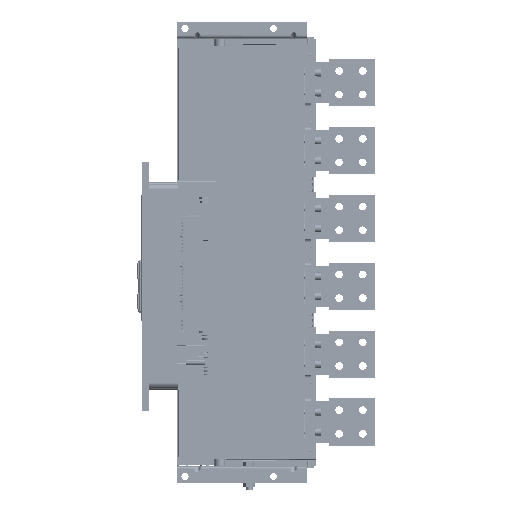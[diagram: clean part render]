
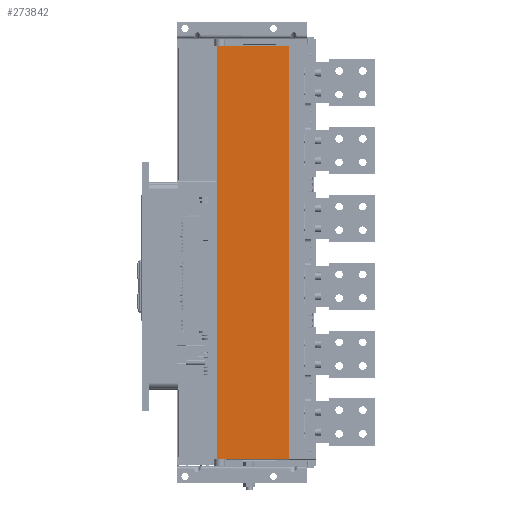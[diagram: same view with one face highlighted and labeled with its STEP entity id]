
A CAD part, front view. The second image highlights one B-rep face of the part: STEP entity #273842.
In plain terms, the highlighted planar face has unit normal (0, -1, 0).
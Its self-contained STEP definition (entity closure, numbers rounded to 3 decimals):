
#6633 = VERTEX_POINT ( 'NONE', #429281 ) ;
#18329 = AXIS2_PLACEMENT_3D ( 'NONE', #238895, #458741, #415844 ) ;
#54956 = FACE_OUTER_BOUND ( 'NONE', #411138, .T. ) ;
#62218 = EDGE_CURVE ( 'NONE', #214574, #446703, #356108, .T. ) ;
#67610 = ORIENTED_EDGE ( 'NONE', *, *, #120999, .T. ) ;
#70294 = CARTESIAN_POINT ( 'NONE',  ( 0., 0., 219. ) ) ;
#120999 = EDGE_CURVE ( 'NONE', #214574, #6633, #413798, .T. ) ;
#158742 = LINE ( 'NONE', #452607, #433960 ) ;
#161078 = DIRECTION ( 'NONE',  ( -1., 0., 0. ) ) ;
#205722 = DIRECTION ( 'NONE',  ( 1., 0., 0. ) ) ;
#214574 = VERTEX_POINT ( 'NONE', #299308 ) ;
#234500 = CARTESIAN_POINT ( 'NONE',  ( 0., 0., -482. ) ) ;
#238895 = CARTESIAN_POINT ( 'NONE',  ( 0., 0., -474.5 ) ) ;
#238901 = VERTEX_POINT ( 'NONE', #256876 ) ;
#238922 = EDGE_CURVE ( 'NONE', #238901, #446703, #158742, .T. ) ;
#248674 = VECTOR ( 'NONE', #289261, 1000. ) ;
#256876 = CARTESIAN_POINT ( 'NONE',  ( 123., 0., 219. ) ) ;
#258118 = CARTESIAN_POINT ( 'NONE',  ( 123., 0., 219. ) ) ;
#273842 = ADVANCED_FACE ( 'NONE', ( #54956 ), #463462, .T. ) ;
#289261 = DIRECTION ( 'NONE',  ( 0., 0., -1. ) ) ;
#296659 = ORIENTED_EDGE ( 'NONE', *, *, #238922, .T. ) ;
#299308 = CARTESIAN_POINT ( 'NONE',  ( 0., 0., -482. ) ) ;
#313173 = DIRECTION ( 'NONE',  ( 0., 0., 1. ) ) ;
#325101 = LINE ( 'NONE', #258118, #248674 ) ;
#337191 = ORIENTED_EDGE ( 'NONE', *, *, #62218, .F. ) ;
#346417 = VECTOR ( 'NONE', #313173, 1000. ) ;
#356108 = LINE ( 'NONE', #427826, #346417 ) ;
#386910 = VECTOR ( 'NONE', #205722, 1000. ) ;
#407517 = ORIENTED_EDGE ( 'NONE', *, *, #432084, .F. ) ;
#411138 = EDGE_LOOP ( 'NONE', ( #296659, #337191, #67610, #407517 ) ) ;
#413798 = LINE ( 'NONE', #234500, #386910 ) ;
#415844 = DIRECTION ( 'NONE',  ( 0., 0., -1. ) ) ;
#427826 = CARTESIAN_POINT ( 'NONE',  ( 0., 0., -482. ) ) ;
#429281 = CARTESIAN_POINT ( 'NONE',  ( 123., 0., -482. ) ) ;
#432084 = EDGE_CURVE ( 'NONE', #238901, #6633, #325101, .T. ) ;
#433960 = VECTOR ( 'NONE', #161078, 1000. ) ;
#446703 = VERTEX_POINT ( 'NONE', #70294 ) ;
#452607 = CARTESIAN_POINT ( 'NONE',  ( 123., 0., 219. ) ) ;
#458741 = DIRECTION ( 'NONE',  ( 0., -1., 0. ) ) ;
#463462 = PLANE ( 'NONE',  #18329 ) ;
